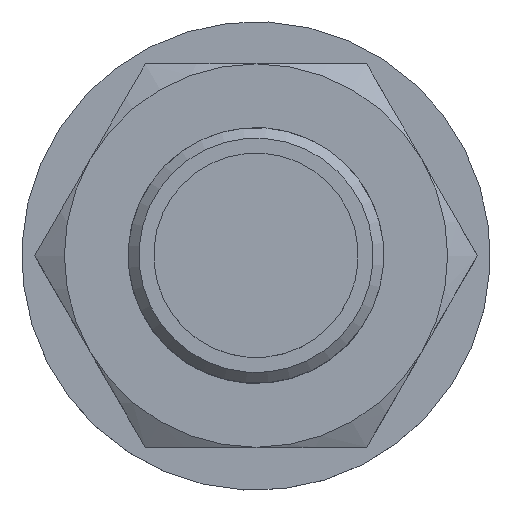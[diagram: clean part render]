
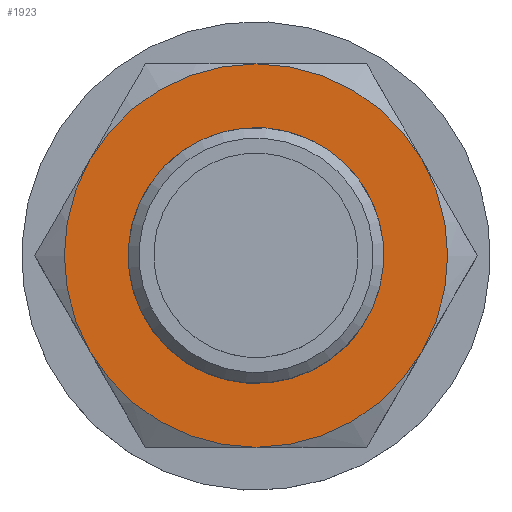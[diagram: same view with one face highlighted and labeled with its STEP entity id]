
A CAD part, top view. The second image highlights one B-rep face of the part: STEP entity #1923.
In plain terms, the highlighted planar face has unit normal (0, 0, 1).
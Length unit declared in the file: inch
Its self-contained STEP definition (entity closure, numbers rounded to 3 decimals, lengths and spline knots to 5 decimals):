
#364=FACE_BOUND('',#524,.T.);
#396=FACE_OUTER_BOUND('',#523,.T.);
#523=EDGE_LOOP('',(#1223,#1224,#1225,#1226,#1227,#1228));
#524=EDGE_LOOP('',(#1229));
#673=CIRCLE('',#2056,0.37513);
#675=CIRCLE('',#2060,0.5625);
#676=CIRCLE('',#2061,0.5625);
#677=CIRCLE('',#2062,0.5625);
#678=CIRCLE('',#2063,0.5625);
#679=CIRCLE('',#2064,0.5625);
#680=CIRCLE('',#2065,0.5625);
#765=VERTEX_POINT('',#2719);
#767=VERTEX_POINT('',#2725);
#768=VERTEX_POINT('',#2726);
#769=VERTEX_POINT('',#2728);
#770=VERTEX_POINT('',#2730);
#771=VERTEX_POINT('',#2732);
#772=VERTEX_POINT('',#2734);
#944=EDGE_CURVE('',#765,#765,#673,.T.);
#946=EDGE_CURVE('',#767,#768,#675,.T.);
#947=EDGE_CURVE('',#768,#769,#676,.T.);
#948=EDGE_CURVE('',#769,#770,#677,.T.);
#949=EDGE_CURVE('',#770,#771,#678,.T.);
#950=EDGE_CURVE('',#771,#772,#679,.T.);
#951=EDGE_CURVE('',#772,#767,#680,.T.);
#1223=ORIENTED_EDGE('',*,*,#946,.T.);
#1224=ORIENTED_EDGE('',*,*,#947,.T.);
#1225=ORIENTED_EDGE('',*,*,#948,.T.);
#1226=ORIENTED_EDGE('',*,*,#949,.T.);
#1227=ORIENTED_EDGE('',*,*,#950,.T.);
#1228=ORIENTED_EDGE('',*,*,#951,.T.);
#1229=ORIENTED_EDGE('',*,*,#944,.F.);
#1757=PLANE('',#2059);
#1923=ADVANCED_FACE('',(#396,#364),#1757,.T.);
#2056=AXIS2_PLACEMENT_3D('',#2720,#2264,#2265);
#2059=AXIS2_PLACEMENT_3D('',#2724,#2270,#2271);
#2060=AXIS2_PLACEMENT_3D('',#2727,#2272,#2273);
#2061=AXIS2_PLACEMENT_3D('',#2729,#2274,#2275);
#2062=AXIS2_PLACEMENT_3D('',#2731,#2276,#2277);
#2063=AXIS2_PLACEMENT_3D('',#2733,#2278,#2279);
#2064=AXIS2_PLACEMENT_3D('',#2735,#2280,#2281);
#2065=AXIS2_PLACEMENT_3D('',#2736,#2282,#2283);
#2264=DIRECTION('center_axis',(0.,0.,
1.));
#2265=DIRECTION('ref_axis',(-0.866,-0.5,0.));
#2270=DIRECTION('center_axis',(0.,0.,
1.));
#2271=DIRECTION('ref_axis',(0.866,0.5,0.));
#2272=DIRECTION('center_axis',(0.,0.,
1.));
#2273=DIRECTION('ref_axis',(-0.5,0.866,0.));
#2274=DIRECTION('center_axis',(0.,0.,
1.));
#2275=DIRECTION('ref_axis',(-0.5,0.866,0.));
#2276=DIRECTION('center_axis',(0.,0.,
1.));
#2277=DIRECTION('ref_axis',(-0.5,0.866,0.));
#2278=DIRECTION('center_axis',(0.,0.,
1.));
#2279=DIRECTION('ref_axis',(-0.5,0.866,0.));
#2280=DIRECTION('center_axis',(0.,0.,
1.));
#2281=DIRECTION('ref_axis',(-0.5,0.866,0.));
#2282=DIRECTION('center_axis',(0.,0.,
1.));
#2283=DIRECTION('ref_axis',(-0.5,0.866,0.));
#2719=CARTESIAN_POINT('',(0.32487,0.18756,5.741));
#2720=CARTESIAN_POINT('Origin',(0.,0.,
5.741));
#2724=CARTESIAN_POINT('Origin',(0.,0.,
5.741));
#2725=CARTESIAN_POINT('',(0.48714,-0.28125,5.741));
#2726=CARTESIAN_POINT('',(0.48714,0.28125,5.741));
#2727=CARTESIAN_POINT('Origin',(0.,0.,
5.741));
#2728=CARTESIAN_POINT('',(0.,0.5625,5.741));
#2729=CARTESIAN_POINT('Origin',(0.,0.,
5.741));
#2730=CARTESIAN_POINT('',(-0.48714,0.28125,5.741));
#2731=CARTESIAN_POINT('Origin',(0.,0.,
5.741));
#2732=CARTESIAN_POINT('',(-0.48714,-0.28125,5.741));
#2733=CARTESIAN_POINT('Origin',(0.,0.,
5.741));
#2734=CARTESIAN_POINT('',(0.,-0.5625,5.741));
#2735=CARTESIAN_POINT('Origin',(0.,0.,
5.741));
#2736=CARTESIAN_POINT('Origin',(0.,0.,
5.741));
